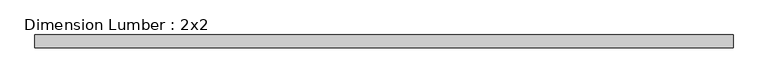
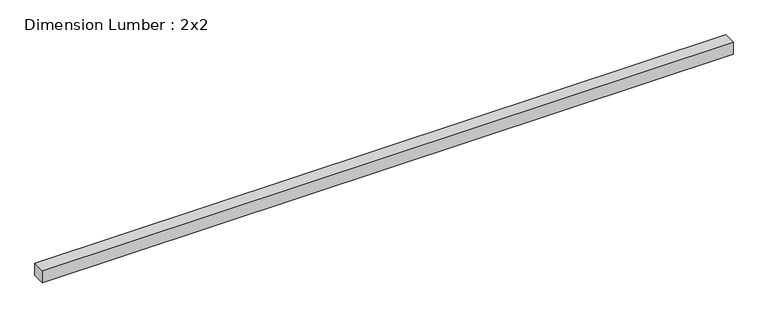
"""IFC4 building model written with IfcOpenShell, lengths in millimetres: beam geometry, Dimension Lumber : 2x2."""

from ifc_helpers import new_model, si_unit, frame, origin, place, context, project, spatial, polyline, outline, extrude, source, transform, mapped, element, save


def dimension_lumber_2x2_0f7440c2(model_context):
    return source(origin(), model_context, "Body", "SweptSolid", [
        extrude(outline(polyline([(1028.7, 19.05), (1028.7, -19.05), (-1028.7, -19.05), (-1028.7, 19.05), (1028.7, 19.05)])), frame((0.0, 0.0, -19.05), z_axis=(0.0, 0.0, 1.0), x_axis=(1.0, 0.0, 0.0)), (0.0, 0.0, 1.0), 38.1),
    ])


if __name__ == "__main__":
    model = new_model("IFC4")
    model_context = context("Model", 3, world=origin())
    ifc_project = project(units=[si_unit("LENGTHUNIT", "METRE", prefix="MILLI")], contexts=[model_context])
    site = spatial("IfcSite", under=ifc_project)
    building = spatial("IfcBuilding", under=site)
    placement = place(None, origin())
    dimension_lumber_2x2_shape = dimension_lumber_2x2_0f7440c2(model_context)
    element("IfcBeam", 1, ObjectType="Dimension Lumber : 2x2", at=placement, inside=building, context=model_context, shape_type="MappedRepresentation", body=[
        mapped(dimension_lumber_2x2_shape, transform((0.0, 0.0, 0.0), x_axis=(1.0, 0.0, 0.0), y_axis=(0.0, 1.0, 0.0), z_axis=(0.0, 0.0, 1.0))),
    ])
    save(model, "model.ifc")
